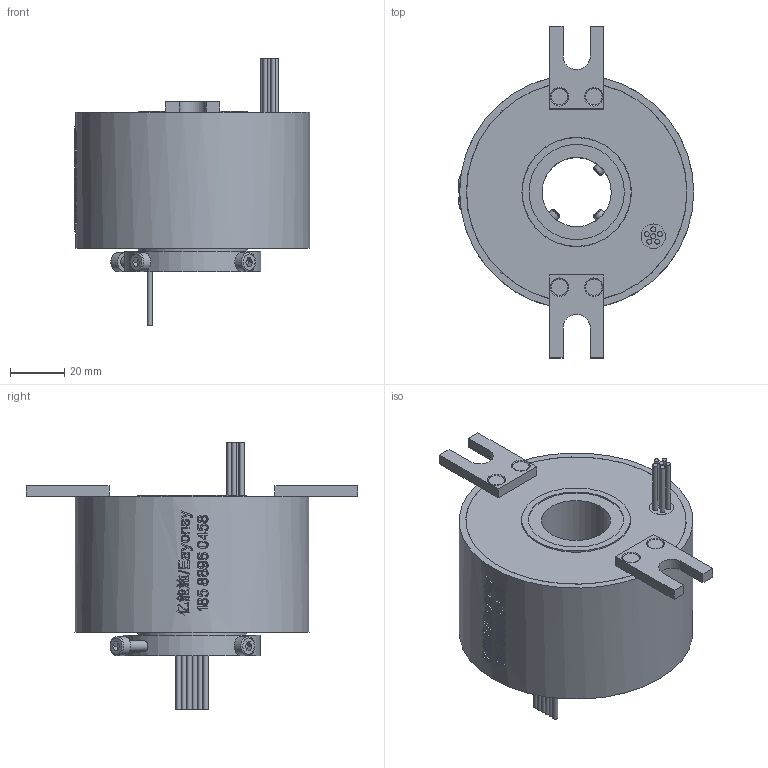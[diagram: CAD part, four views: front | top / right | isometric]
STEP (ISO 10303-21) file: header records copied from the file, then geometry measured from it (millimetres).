
FILE_DESCRIPTION(/* description */ (''),/* implementation_level */ '2;1');
FILE_NAME(/* name */ 'YDS2586-0610-3D模型.stp',/* time_stamp */ '2025-09-03T18:48:23+08:00',/* author */ (''),/* organization */ (''),/* preprocessor_version */ 'ST-DEVELOPER v16.7',/* originating_system */ 'SIEMENS PLM Software NX 12.0',/* authorisation */ '');
FILE_SCHEMA (('AUTOMOTIVE_DESIGN { 1 0 10303 214 3 1 1 1 }'));
Length unit declared in the file: millimetre
Products named in the file (1): Admi57E0E5BE09s7
Bounding box: 86.5 x 122 x 98.3 mm (x, y, z)
Volume: 281841.6 mm3; surface area: 38931 mm2
Topology: 1 solids, 5 shells, 897 faces, 2389 edges, 1588 vertices
Faces by surface type: extrusion 452, plane 326, cylinder 70, bspline 33, cone 12, torus 4
Full cylindrical faces by diameter (mm): 1.8 x12, 3 x4, 3.4 x1, 3.5 x4, 4 x7, 6 x4, 7 x4, 9 x1, 25.4 x1, 35 x1, 40 x2, 40.2 x1, 43 x1, 43.2 x1, 50 x1, 80.9 x2, 81 x2, 86 x1
Entity records: 35616 total; most frequent: CARTESIAN_POINT 16907, ORIENTED_EDGE 4604, EDGE_CURVE 2302, B_SPLINE_CURVE_WITH_KNOTS 2203, DIRECTION 2102, VERTEX_POINT 1567, EDGE_LOOP 1063, ADVANCED_FACE 897
